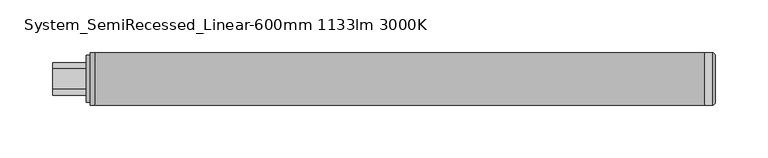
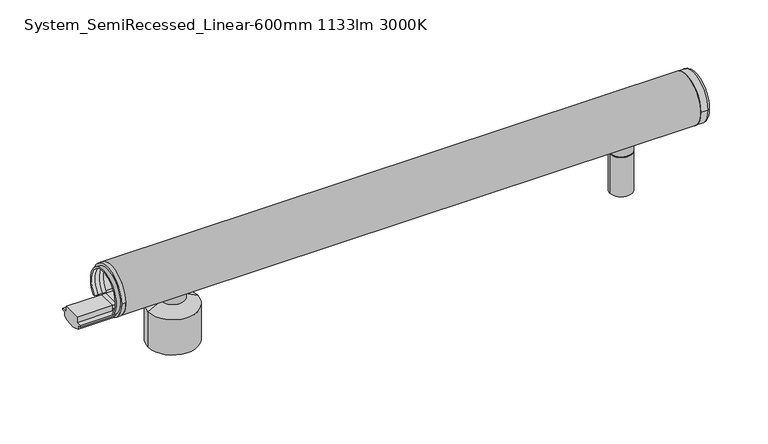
"""IFC4 building model written with IfcOpenShell, lengths in millimetres: light fixture geometry, ARTEMIDE-AoL-System-Linear_WallCeiling_US : System_SemiRecessed_Linear-600mm 1133lm 3000K."""

from ifc_helpers import new_model, si_unit, point, frame, frame_2d, origin, place, context, project, spatial, polyline, circle_curve, ellipse_curve, trimmed, segment, composite_curve, outline, extrude, source, transform, mapped, element, save
from ifc_brep_helpers import plane_surface, cylinder_surface, revolved_surface, advanced_brep


def system_semirecessed_linear_600mm_1133lm_3000k_d28b8efa(model_context):
    return source(origin(), model_context, "Body", "SolidModel", [
        advanced_brep(
        [(-2.0, 25.0245983, 74.9754017), (-2.0, -25.0245983, 74.9754017), (-2.0, -9.5062575, 60.6916114), (-2.0, -9.5062575, 64.3781516), (-2.0, 9.5062575, 64.3781516), (-2.0, 9.5062575, 60.6916114), (-2.0, 15.4273739, 60.6916114), (-2.0, 17.2867732, 60.6916114), (-2.0, -17.2867732, 60.6916114), (-2.0, -15.4273739, 60.6916114), (2.0, 25.0245983, 74.9754017), (2.0, -25.0245983, 74.9754017), (2.0, -9.5062575, 60.6916114), (2.0, -15.4273739, 60.6916114), (2.0, -17.2867732, 60.6916114), (2.0, 17.2867732, 60.6916114), (2.0, 15.4273739, 60.6916114), (2.0, 9.5062575, 60.6916114), (2.0, 9.5062575, 64.3781516), (2.0, -9.5062575, 64.3781516), (-6.0, -15.4273739, 60.6916114), (-6.0, -17.2867732, 60.6916114), (-6.0, 17.2867732, 60.6916114), (-6.0, 15.4273739, 60.6916114), (6.0, -15.4273739, 60.6916114), (6.0, 15.4273739, 60.6916114), (6.0, 17.2867732, 60.6916114), (6.0, -17.2867732, 60.6916114)],
        [
            (0, 1, circle_curve(frame((-2.0, 0.0, 74.9754017), z_axis=(-1.0, 0.0, 0.0), x_axis=(0.0, -1.0, 0.0)), 25.0245983)),
            (1, 0, circle_curve(frame((-2.0, 0.0, 74.9754017), z_axis=(-1.0, 0.0, 0.0), x_axis=(0.0, -1.0, 0.0)), 25.0245983)),
            (2, 3),
            (3, 4),
            (4, 5),
            (5, 6),
            (6, 7),
            (7, 8, circle_curve(frame((-2.0, 0.0, 74.9754017), z_axis=(1.0, 0.0, 0.0), x_axis=(0.0, -1.0, 0.0)), 22.4245221)),
            (8, 9),
            (9, 2),
            (10, 11, circle_curve(frame((2.0, 0.0, 74.9754017), z_axis=(1.0, 0.0, 0.0), x_axis=(0.0, -1.0, 0.0)), 25.0245983)),
            (11, 10, circle_curve(frame((2.0, 0.0, 74.9754017), z_axis=(1.0, 0.0, 0.0), x_axis=(0.0, -1.0, 0.0)), 25.0245983)),
            (12, 13),
            (13, 14),
            (14, 15, circle_curve(frame((2.0, 0.0, 74.9754017), z_axis=(-1.0, 0.0, 0.0), x_axis=(0.0, -1.0, 0.0)), 22.4245221)),
            (15, 16),
            (16, 17),
            (17, 18),
            (18, 19),
            (19, 12),
            (5, 17),
            (16, 6),
            (9, 13),
            (12, 2),
            (19, 3),
            (0, 10),
            (11, 1),
            (16, 13, circle_curve(frame((2.0, 0.0, 74.9754017), z_axis=(1.0, 0.0, 0.0), x_axis=(0.0, -1.0, 0.0)), 21.0245221)),
            (9, 6, circle_curve(frame((-2.0, 0.0, 74.9754017), z_axis=(-1.0, 0.0, 0.0), x_axis=(0.0, -1.0, 0.0)), 21.0245221)),
            (20, 21),
            (21, 22, circle_curve(frame((-6.0, 0.0, 74.9754017), z_axis=(-1.0, 0.0, 0.0), x_axis=(0.0, -1.0, 0.0)), 22.4245221)),
            (22, 23),
            (23, 20, circle_curve(frame((-6.0, 0.0, 74.9754017), z_axis=(1.0, 0.0, 0.0), x_axis=(0.0, -1.0, 0.0)), 21.0245221)),
            (24, 25, circle_curve(frame((6.0, 0.0, 74.9754017), z_axis=(-1.0, 0.0, 0.0), x_axis=(0.0, -1.0, 0.0)), 21.0245221)),
            (25, 26),
            (26, 27, circle_curve(frame((6.0, 0.0, 74.9754017), z_axis=(1.0, 0.0, 0.0), x_axis=(0.0, -1.0, 0.0)), 22.4245221)),
            (27, 24),
            (23, 6),
            (9, 20),
            (24, 13),
            (16, 25),
            (8, 21),
            (27, 14),
            (7, 22),
            (26, 15),
            (18, 4),
        ],
        [
            plane_surface(frame((-2.0, 0.0, 74.9754017), z_axis=(-1.0, 0.0, 0.0), x_axis=(0.0, 0.0, -1.0))),
            plane_surface(frame((2.0, 0.0, 74.9754017), z_axis=(1.0, 0.0, 0.0), x_axis=(0.0, 0.0, -1.0))),
            plane_surface(frame((-2.0, 9.5062575, 60.6916114), z_axis=(0.0, 0.0, 1.0), x_axis=(1.0, 0.0, 0.0))),
            plane_surface(frame((-2.0, -15.4273739, 60.6916114), z_axis=(0.0, 0.0, 1.0), x_axis=(1.0, 0.0, 0.0))),
            plane_surface(frame((-2.0, -9.5062575, 60.6916114), z_axis=(0.0, -1.0, 0.0), x_axis=(1.0, 0.0, 0.0))),
            cylinder_surface(frame((-2.0, 0.0, 74.9754017), z_axis=(-1.0, 0.0, 0.0), x_axis=(0.0, -1.0, 0.0)), 25.0245983),
            revolved_surface(polyline([(2.0, -21.0245221, 74.9754017), (-2.0, -21.0245221, 74.9754017)]), (-2.0, 0.0, 74.9754017), (1.0, 0.0, 0.0)),
            plane_surface(frame((-6.0, 0.0, 74.9754017), z_axis=(-1.0, 0.0, 0.0), x_axis=(0.0, 0.0, -1.0))),
            plane_surface(frame((6.0, 0.0, 74.9754017), z_axis=(1.0, 0.0, 0.0), x_axis=(0.0, 0.0, -1.0))),
            revolved_surface(polyline([(-2.0, -21.0245221, 74.9754017), (-6.0, -21.0245221, 74.9754017)]), (-6.0, 0.0, 74.9754017), (1.0, 0.0, 0.0)),
            revolved_surface(polyline([(6.0, -21.0245221, 74.9754017), (2.0, -21.0245221, 74.9754017)]), (-6.0, 0.0, 74.9754017), (1.0, 0.0, 0.0)),
            plane_surface(frame((-6.0, -15.4273739, 60.6916114), z_axis=(0.0, 0.0, -1.0), x_axis=(1.0, 0.0, 0.0))),
            cylinder_surface(frame((-6.0, 0.0, 74.9754017), z_axis=(-1.0, 0.0, 0.0), x_axis=(0.0, -1.0, 0.0)), 22.4245221),
            plane_surface(frame((-6.0, 17.2867732, 60.6916114), z_axis=(0.0, 0.0, -1.0), x_axis=(1.0, 0.0, 0.0))),
            plane_surface(frame((-2.0, -9.5062575, 64.3781516), z_axis=(0.0, 0.0, 1.0), x_axis=(1.0, 0.0, 0.0))),
            plane_surface(frame((-2.0, 9.5062575, 64.3781516), z_axis=(0.0, 1.0, 0.0), x_axis=(1.0, 0.0, 0.0))),
        ],
        [
            (0, [[1, 2], [3, 4, 5, 6, 7, 8, 9, 10]]),
            (1, [[11, 12], [13, 14, 15, 16, 17, 18, 19, 20]]),
            (2, [[-6, 21, -17, 22]]),
            (3, [[-10, 23, -13, 24]]),
            (4, [[-3, -24, -20, 25]]),
            (5, [[-1, 26, -12, 27]]),
            (6, [[-22, 28, -23, 29]]),
            (7, [[30, 31, 32, 33]]),
            (8, [[34, 35, 36, 37]]),
            (9, [[-33, 38, -29, 39]]),
            (10, [[-34, 40, -28, 41]]),
            (11, [[-30, -39, -9, 42]]),
            (11, [[-37, 43, -14, -40]]),
            (12, [[-31, -42, -8, 44]]),
            (12, [[-36, 45, -15, -43]]),
            (13, [[-32, -44, -7, -38]]),
            (13, [[-35, -41, -16, -45]]),
            (5, [[-2, -27, -11, -26]]),
            (14, [[-4, -25, -19, 46]]),
            (15, [[-5, -46, -18, -21]]),
        ],
    ),
        extrude(outline(composite_curve([segment(polyline([(-11.75, 57.2067494), (-15.304087, 57.2067494), (-15.304087, 58.7367744), (-9.5062575, 58.7367744), (-9.5062575, 64.3781516), (9.5062575, 64.3781516), (9.5062575, 58.7367744), (15.304087, 58.7367744), (15.304087, 57.2067494), (11.75, 57.2067494), (11.75, 52.880877)]), True, "CONTINUOUS"), segment(trimmed(circle_curve(frame_2d((0.0, 74.9754017)), 25.0245983), [point((11.75, 52.880877))], [point((-11.75, 52.880877))], False, "CARTESIAN"), True, "CONTINUOUS"), segment(polyline([(-11.75, 52.880877), (-11.75, 57.2067494)]), True, "CONTINUOUS")], self_intersect=False)), frame((2.0, 0.0, 0.0), z_axis=(1.0, 0.0, 0.0), x_axis=(0.0, 1.0, 0.0)), (0.0, 0.0, 1.0), 36.0),
        extrude(outline(composite_curve([segment(polyline([(-11.75, 57.2067494), (-15.304087, 57.2067494), (-15.304087, 58.7367744), (-9.5062575, 58.7367744), (-9.5062575, 64.3781516), (9.5062575, 64.3781516), (9.5062575, 58.7367744), (15.304087, 58.7367744), (15.304087, 57.2067494), (11.75, 57.2067494), (11.75, 52.880877)]), True, "CONTINUOUS"), segment(trimmed(circle_curve(frame_2d((0.0, 74.9754017)), 25.0245983), [point((11.75, 52.880877))], [point((-11.75, 52.880877))], False, "CARTESIAN"), True, "CONTINUOUS"), segment(polyline([(-11.75, 52.880877), (-11.75, 57.2067494)]), True, "CONTINUOUS")], self_intersect=False)), frame((-38.0, 0.0, 0.0), z_axis=(1.0, 0.0, 0.0), x_axis=(0.0, 1.0, 0.0)), (0.0, 0.0, 1.0), 36.0),
        advanced_brep(
        [(64.0, 0.0, 54.0), (76.0, 0.0, 54.0), (52.0, 0.0, 54.0), (39.0, 0.0, 0.0), (89.0, 0.0, 0.0), (64.0, 0.0, 0.0), (39.0, 0.0, 37.5120373), (89.0, 0.0, 37.5120373), (52.0, 0.0, 44.4453706), (76.0, 0.0, 44.4453706)],
        [
            (0, 1),
            (1, 2, circle_curve(frame((64.0, 0.0, 54.0), z_axis=(0.0, 0.0, 1.0), x_axis=(1.0, 0.0, 0.0)), 12.0)),
            (2, 0),
            (2, 1, circle_curve(frame((64.0, 0.0, 54.0), z_axis=(0.0, 0.0, 1.0), x_axis=(1.0, 0.0, 0.0)), 12.0)),
            (3, 4, circle_curve(frame((64.0, 0.0, 0.0), z_axis=(0.0, 0.0, -1.0), x_axis=(1.0, 0.0, 0.0)), 25.0)),
            (4, 5),
            (5, 3),
            (4, 3, circle_curve(frame((64.0, 0.0, 0.0), z_axis=(0.0, 0.0, -1.0), x_axis=(1.0, 0.0, 0.0)), 25.0)),
            (6, 7, circle_curve(frame((64.0, 0.0, 37.5120373), z_axis=(0.0, 0.0, -1.0), x_axis=(1.0, 0.0, 0.0)), 25.0)),
            (7, 4),
            (3, 6),
            (7, 6, circle_curve(frame((64.0, 0.0, 37.5120373), z_axis=(0.0, 0.0, -1.0), x_axis=(1.0, 0.0, 0.0)), 25.0)),
            (8, 9, circle_curve(frame((64.0, 0.0, 44.4453706), z_axis=(0.0, 0.0, -1.0), x_axis=(1.0, 0.0, 0.0)), 12.0)),
            (9, 7),
            (6, 8),
            (9, 8, circle_curve(frame((64.0, 0.0, 44.4453706), z_axis=(0.0, 0.0, -1.0), x_axis=(1.0, 0.0, 0.0)), 12.0)),
            (1, 9),
            (8, 2),
        ],
        [
            plane_surface(frame((64.0, 0.0, 54.0), z_axis=(0.0, 0.0, 1.0), x_axis=(1.0, 0.0, 0.0))),
            plane_surface(frame((64.0, 0.0, 0.0), z_axis=(0.0, 0.0, -1.0), x_axis=(1.0, 0.0, 0.0))),
            cylinder_surface(frame((64.0, 0.0, -58.83358), z_axis=(0.0, 0.0, 1.0), x_axis=(1.0, 0.0, 0.0)), 25.0),
            revolved_surface(polyline([(89.0, 0.0, 37.5120373), (76.0, 0.0, 44.4453706)]), (64.0, 0.0, -58.83358), (0.0, 0.0, 1.0)),
            cylinder_surface(frame((64.0, 0.0, -58.83358), z_axis=(0.0, 0.0, 1.0), x_axis=(1.0, 0.0, 0.0)), 12.0),
        ],
        [
            (0, [[1, 2, 3]]),
            (0, [[-3, 4, -1]]),
            (1, [[5, 6, 7]]),
            (1, [[8, -7, -6]]),
            (2, [[9, 10, -5, 11]]),
            (2, [[12, -11, -8, -10]]),
            (3, [[13, 14, -9, 15]]),
            (3, [[16, -15, -12, -14]]),
            (4, [[-2, 17, -13, 18]]),
            (4, [[-4, -18, -16, -17]]),
        ],
    ),
        advanced_brep(
        [(511.3054564, 0.0, 1.0), (520.6945436, 0.0, 1.0), (520.6945436, 0.0, 0.0), (511.3054564, 0.0, 0.0), (504.8054564, 0.0, 1.0), (527.1945436, 0.0, 1.0), (504.8054564, 0.0, 42.5), (527.1945436, 0.0, 42.5), (507.2810808, 0.0, 42.5), (524.7189192, 0.0, 42.5), (507.2810808, 0.0, 43.4995055), (524.7189192, 0.0, 43.4995055), (504.8054564, 0.0, 43.4995055), (527.1945436, 0.0, 43.4995055), (504.8054564, 0.0, 52.9333396), (527.1945436, 0.0, 52.9333396), (516.0, 0.0, 52.9333396), (516.0, 0.0, 0.0)],
        [
            (0, 1, circle_curve(frame((516.0, 0.0, 1.0), z_axis=(0.0, 0.0, -1.0), x_axis=(1.0, 0.0, 0.0)), 4.6945436)),
            (1, 2),
            (2, 3, circle_curve(frame((516.0, 0.0, 0.0), z_axis=(0.0, 0.0, 1.0), x_axis=(1.0, 0.0, 0.0)), 4.6945436)),
            (3, 0),
            (1, 0, circle_curve(frame((516.0, 0.0, 1.0), z_axis=(0.0, 0.0, -1.0), x_axis=(1.0, 0.0, 0.0)), 4.6945436)),
            (3, 2, circle_curve(frame((516.0, 0.0, 0.0), z_axis=(0.0, 0.0, 1.0), x_axis=(1.0, 0.0, 0.0)), 4.6945436)),
            (4, 5, circle_curve(frame((516.0, 0.0, 1.0), z_axis=(0.0, 0.0, -1.0), x_axis=(1.0, 0.0, 0.0)), 11.1945436)),
            (5, 1),
            (0, 4),
            (5, 4, circle_curve(frame((516.0, 0.0, 1.0), z_axis=(0.0, 0.0, -1.0), x_axis=(1.0, 0.0, 0.0)), 11.1945436)),
            (6, 7, circle_curve(frame((516.0, 0.0, 42.5), z_axis=(0.0, 0.0, -1.0), x_axis=(1.0, 0.0, 0.0)), 11.1945436)),
            (7, 5),
            (4, 6),
            (7, 6, circle_curve(frame((516.0, 0.0, 42.5), z_axis=(0.0, 0.0, -1.0), x_axis=(1.0, 0.0, 0.0)), 11.1945436)),
            (8, 9, circle_curve(frame((516.0, 0.0, 42.5), z_axis=(0.0, 0.0, -1.0), x_axis=(1.0, 0.0, 0.0)), 8.7189192)),
            (9, 7),
            (6, 8),
            (9, 8, circle_curve(frame((516.0, 0.0, 42.5), z_axis=(0.0, 0.0, -1.0), x_axis=(1.0, 0.0, 0.0)), 8.7189192)),
            (10, 11, circle_curve(frame((516.0, 0.0, 43.4995055), z_axis=(0.0, 0.0, -1.0), x_axis=(1.0, 0.0, 0.0)), 8.7189192)),
            (11, 9),
            (8, 10),
            (11, 10, circle_curve(frame((516.0, 0.0, 43.4995055), z_axis=(0.0, 0.0, -1.0), x_axis=(1.0, 0.0, 0.0)), 8.7189192)),
            (12, 13, circle_curve(frame((516.0, 0.0, 43.4995055), z_axis=(0.0, 0.0, -1.0), x_axis=(1.0, 0.0, 0.0)), 11.1945436)),
            (13, 11),
            (10, 12),
            (13, 12, circle_curve(frame((516.0, 0.0, 43.4995055), z_axis=(0.0, 0.0, -1.0), x_axis=(1.0, 0.0, 0.0)), 11.1945436)),
            (14, 15, circle_curve(frame((516.0, 0.0, 52.9333396), z_axis=(0.0, 0.0, -1.0), x_axis=(1.0, 0.0, 0.0)), 11.1945436)),
            (15, 13),
            (12, 14),
            (15, 14, circle_curve(frame((516.0, 0.0, 52.9333396), z_axis=(0.0, 0.0, -1.0), x_axis=(1.0, 0.0, 0.0)), 11.1945436)),
            (16, 15),
            (14, 16),
            (2, 17),
            (17, 3),
        ],
        [
            cylinder_surface(frame((516.0, 0.0, -58.83358), z_axis=(0.0, 0.0, 1.0), x_axis=(1.0, 0.0, 0.0)), 4.6945436),
            plane_surface(frame((516.0, 0.0, 1.0), z_axis=(0.0, 0.0, -1.0), x_axis=(1.0, 0.0, 0.0))),
            cylinder_surface(frame((516.0, 0.0, -58.83358), z_axis=(0.0, 0.0, 1.0), x_axis=(1.0, 0.0, 0.0)), 11.1945436),
            plane_surface(frame((516.0, 0.0, 42.5), z_axis=(0.0, 0.0, 1.0), x_axis=(1.0, 0.0, 0.0))),
            cylinder_surface(frame((516.0, 0.0, -58.83358), z_axis=(0.0, 0.0, 1.0), x_axis=(1.0, 0.0, 0.0)), 8.7189192),
            plane_surface(frame((516.0, 0.0, 43.4995055), z_axis=(0.0, 0.0, -1.0), x_axis=(1.0, 0.0, 0.0))),
            plane_surface(frame((516.0, 0.0, 52.9333396), z_axis=(0.0, 0.0, 1.0), x_axis=(1.0, 0.0, 0.0))),
            plane_surface(frame((516.0, 0.0, 0.0), z_axis=(0.0, 0.0, -1.0), x_axis=(1.0, 0.0, 0.0))),
        ],
        [
            (0, [[1, 2, 3, 4]]),
            (0, [[5, -4, 6, -2]]),
            (1, [[7, 8, -1, 9]]),
            (1, [[10, -9, -5, -8]]),
            (2, [[11, 12, -7, 13]]),
            (2, [[14, -13, -10, -12]]),
            (3, [[15, 16, -11, 17]]),
            (3, [[18, -17, -14, -16]]),
            (4, [[19, 20, -15, 21]]),
            (4, [[22, -21, -18, -20]]),
            (5, [[23, 24, -19, 25]]),
            (5, [[26, -25, -22, -24]]),
            (2, [[27, 28, -23, 29]]),
            (2, [[30, -29, -26, -28]]),
            (6, [[31, -27, 32]]),
            (6, [[-32, -30, -31]]),
            (7, [[-3, 33, 34]]),
            (7, [[-6, -34, -33]]),
        ],
    ),
        advanced_brep(
        [(592.0, -22.0, 75.0), (592.0, 22.0, 75.0), (582.0, 25.0, 75.0), (582.0, -25.0, 75.0), (589.0, -25.0, 75.0), (589.0, 25.0, 75.0)],
        [
            (0, 1, circle_curve(frame((592.0, 0.0, 75.0), z_axis=(1.0, 0.0, 0.0), x_axis=(0.0, 1.0, 0.0)), 22.0)),
            (1, 0, circle_curve(frame((592.0, 0.0, 75.0), z_axis=(1.0, 0.0, 0.0), x_axis=(0.0, -1.0, 0.0)), 22.0)),
            (2, 3, circle_curve(frame((582.0, 0.0, 75.0), z_axis=(-1.0, 0.0, 0.0), x_axis=(0.0, 0.0, 1.0)), 25.0)),
            (3, 2, circle_curve(frame((582.0, 0.0, 75.0), z_axis=(-1.0, 0.0, 0.0), x_axis=(0.0, 0.0, 1.0)), 25.0)),
            (3, 4),
            (4, 5, circle_curve(frame((589.0, 0.0, 75.0), z_axis=(-1.0, 0.0, 0.0), x_axis=(0.0, 0.0, 1.0)), 25.0)),
            (5, 2),
            (5, 4, circle_curve(frame((589.0, 0.0, 75.0), z_axis=(-1.0, 0.0, 0.0), x_axis=(0.0, 0.0, 1.0)), 25.0)),
            (0, 4, circle_curve(frame((589.0, -22.0, 75.0), z_axis=(0.0, 0.0, -1.0), x_axis=(0.0, -1.0, 0.0)), 3.0)),
            (5, 1, circle_curve(frame((589.0, 22.0, 75.0), z_axis=(0.0, 0.0, -1.0), x_axis=(0.0, 1.0, 0.0)), 3.0)),
        ],
        [
            plane_surface(frame((592.0, 0.0, 100.0), z_axis=(1.0, 0.0, 0.0), x_axis=(0.0, -1.0, 0.0))),
            plane_surface(frame((582.0, 0.0, 100.0), z_axis=(-1.0, 0.0, 0.0), x_axis=(0.0, 1.0, 0.0))),
            cylinder_surface(frame((582.0, 0.0, 75.0), z_axis=(1.0, 0.0, 0.0), x_axis=(0.0, 0.0, 1.0)), 25.0),
            revolved_surface(trimmed(ellipse_curve(frame((589.0, 22.0, 75.0), z_axis=(0.0, 0.0, 1.0), x_axis=(0.0, 1.0, 0.0)), 3.0, 3.0), [point((592.0, 22.0, 75.0))], [point((589.0, 25.0, 75.0))], True, "CARTESIAN"), (592.0, 0.0, 75.0), (-1.0, 0.0, 0.0)),
            revolved_surface(trimmed(ellipse_curve(frame((589.0, -22.0, 75.0), z_axis=(0.0, 0.0, -1.0), x_axis=(0.0, -1.0, 0.0)), 3.0, 3.0), [point((592.0, -22.0, 75.0))], [point((589.0, -25.0, 75.0))], True, "CARTESIAN"), (592.0, 0.0, 75.0), (-1.0, 0.0, 0.0)),
        ],
        [
            (0, [[1, 2]]),
            (1, [[3, 4]]),
            (2, [[-4, 5, 6, 7]]),
            (2, [[-3, -7, 8, -5]]),
            (3, [[9, -8, 10, -1]]),
            (4, [[-9, -2, -10, -6]]),
        ],
    ),
        extrude(outline(composite_curve([segment(trimmed(circle_curve(frame_2d((0.0, 75.0)), 25.0), [point((-11.75, 52.9333396))], [point((11.75, 52.9333396))], False, "CARTESIAN"), True, "CONTINUOUS"), segment(polyline([(11.75, 52.9333396), (11.75, 57.259212), (13.667754, 57.259212), (13.667754, 55.8288843), (15.617754, 57.2440748), (15.617754, 59.244074), (12.667754, 59.244074), (12.667754, 60.744074), (17.2779794, 60.744074)]), True, "CONTINUOUS"), segment(trimmed(circle_curve(frame_2d((0.0, 75.0)), 22.4), [point((17.2779794, 60.744074))], [point((-17.2779794, 60.744074))], True, "CARTESIAN"), True, "CONTINUOUS"), segment(polyline([(-17.2779794, 60.744074), (-12.667754, 60.744074), (-12.667754, 59.244074), (-15.617754, 59.244074), (-15.617754, 57.2440748), (-13.667754, 55.8288843), (-13.667754, 57.259212), (-11.75, 57.259212), (-11.75, 52.9333396)]), True, "CONTINUOUS")], self_intersect=False)), frame((2.0, 0.0, 0.0), z_axis=(1.0, 0.0, 0.0), x_axis=(0.0, 1.0, 0.0)), (0.0, 0.0, 1.0), 580.0),
        extrude(outline(composite_curve([segment(trimmed(circle_curve(frame_2d((0.0, 75.0)), 25.0), [point((11.75, 52.9333396))], [point((-11.75, 52.9333396))], False, "CARTESIAN"), True, "CONTINUOUS"), segment(polyline([(-11.75, 52.9333396), (-11.75, 57.259212), (-15.304087, 57.259212), (-15.304087, 58.785971), (-9.5062575, 58.785971), (-9.5062575, 64.4273482), (9.5062575, 64.4273482), (9.5062575, 58.785971), (15.304087, 58.785971), (15.304087, 57.259212), (11.75, 57.259212), (11.75, 52.9333396)]), True, "CONTINUOUS")], self_intersect=False)), frame((38.0, 0.0, 0.0), z_axis=(1.0, 0.0, 0.0), x_axis=(0.0, 1.0, 0.0)), (0.0, 0.0, 1.0), 544.0),
    ])


if __name__ == "__main__":
    model = new_model("IFC4")
    model_context = context("Model", 3, world=origin())
    ifc_project = project(units=[si_unit("LENGTHUNIT", "METRE", prefix="MILLI")], contexts=[model_context])
    site = spatial("IfcSite", under=ifc_project)
    building = spatial("IfcBuilding", under=site)
    placement = place(None, origin())
    system_semirecessed_linear_600mm_1133lm_3000k_shape = system_semirecessed_linear_600mm_1133lm_3000k_d28b8efa(model_context)
    element("IfcLightFixture", 1, ObjectType="ARTEMIDE-AoL-System-Linear_WallCeiling_US : System_SemiRecessed_Linear-600mm 1133lm 3000K", at=placement, inside=building, context=model_context, shape_type="MappedRepresentation", body=[
        mapped(system_semirecessed_linear_600mm_1133lm_3000k_shape, transform((0.0, 0.0, 0.0), x_axis=(1.0, 0.0, 0.0), y_axis=(0.0, 1.0, 0.0), z_axis=(0.0, 0.0, 1.0))),
    ])
    save(model, "model.ifc")
